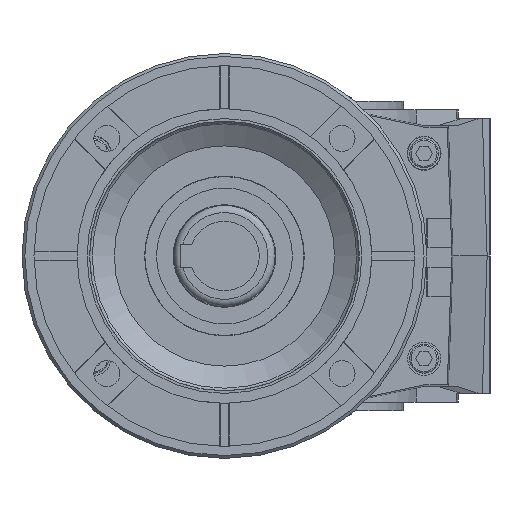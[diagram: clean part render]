
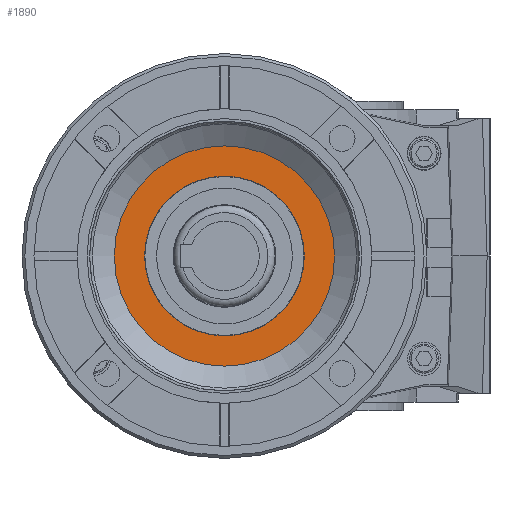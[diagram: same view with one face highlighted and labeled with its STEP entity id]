
A CAD part, left-side view. The second image highlights one B-rep face of the part: STEP entity #1890.
In plain terms, the highlighted planar face has unit normal (-1, 0, 0).
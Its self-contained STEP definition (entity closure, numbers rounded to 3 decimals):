
#1890 = ADVANCED_FACE( '', ( #4516, #4517 ), #4518, .F. );
#4516 = FACE_OUTER_BOUND( '', #8441, .T. );
#4517 = FACE_BOUND( '', #8442, .T. );
#4518 = PLANE( '', #8443 );
#8441 = EDGE_LOOP( '', ( #14664 ) );
#8442 = EDGE_LOOP( '', ( #14665 ) );
#8443 = AXIS2_PLACEMENT_3D( '', #14666, #14667, #14668 );
#14664 = ORIENTED_EDGE( '', *, *, #21962, .F. );
#14665 = ORIENTED_EDGE( '', *, *, #21963, .T. );
#14666 = CARTESIAN_POINT( '', ( -186.5, 49.401, 0. ) );
#14667 = DIRECTION( '', ( 1., 0., 0. ) );
#14668 = DIRECTION( '', ( 0., -1., 0. ) );
#21962 = EDGE_CURVE( '', #26634, #26634, #26635, .T. );
#21963 = EDGE_CURVE( '', #26636, #26636, #26637, .T. );
#26634 = VERTEX_POINT( '', #33720 );
#26635 = CIRCLE( '', #33721, 38.076 );
#26636 = VERTEX_POINT( '', #33722 );
#26637 = CIRCLE( '', #33723, 27.601 );
#33720 = CARTESIAN_POINT( '', ( -186.5, -16.276, 0. ) );
#33721 = AXIS2_PLACEMENT_3D( '', #38688, #38689, #38690 );
#33722 = CARTESIAN_POINT( '', ( -186.5, -5.801, 0. ) );
#33723 = AXIS2_PLACEMENT_3D( '', #38691, #38692, #38693 );
#38688 = CARTESIAN_POINT( '', ( -186.5, 21.8, 0. ) );
#38689 = DIRECTION( '', ( 1., 0., 0. ) );
#38690 = DIRECTION( '', ( 0., -1., 0. ) );
#38691 = CARTESIAN_POINT( '', ( -186.5, 21.8, 0. ) );
#38692 = DIRECTION( '', ( 1., 0., 0. ) );
#38693 = DIRECTION( '', ( 0., -1., 0. ) );
